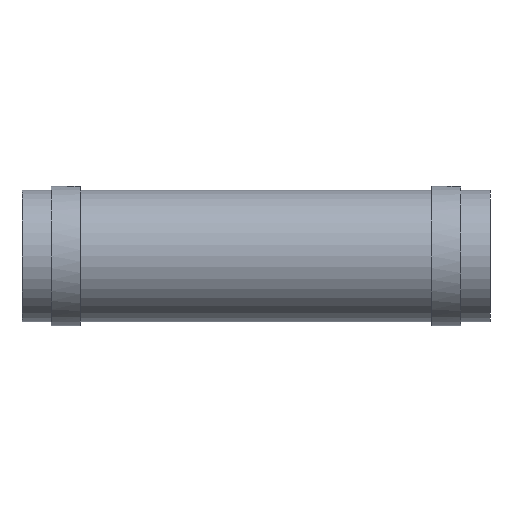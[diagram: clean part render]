
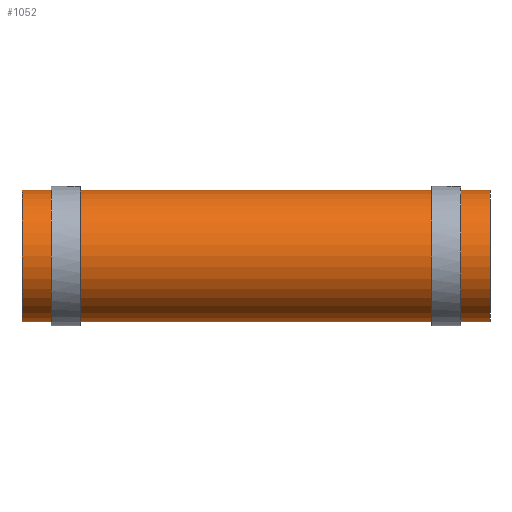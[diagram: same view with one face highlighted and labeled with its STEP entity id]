
A CAD part, front view. The second image highlights one B-rep face of the part: STEP entity #1052.
In plain terms, the highlighted cylindrical face has radius 14.287 mm (diameter 28.575 mm), a partial arc.
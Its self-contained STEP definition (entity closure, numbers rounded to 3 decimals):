
#46 = DIRECTION ( 'NONE',  ( -1., 0., 0. ) ) ;
#59 = CARTESIAN_POINT ( 'NONE',  ( 50.8, 0., -14.288 ) ) ;
#156 = DIRECTION ( 'NONE',  ( -1., 0., 0. ) ) ;
#199 = DIRECTION ( 'NONE',  ( 1., 0., 0. ) ) ;
#269 = CARTESIAN_POINT ( 'NONE',  ( 50.8, 0., -14.288 ) ) ;
#273 = CARTESIAN_POINT ( 'NONE',  ( 50.8, 0., 14.288 ) ) ;
#274 = CARTESIAN_POINT ( 'NONE',  ( -50.8, 0., -14.288 ) ) ;
#279 = CARTESIAN_POINT ( 'NONE',  ( -50.8, 0., 14.288 ) ) ;
#419 = DIRECTION ( 'NONE',  ( 0., 0., 1. ) ) ;
#430 = DIRECTION ( 'NONE',  ( -1., 0., 0. ) ) ;
#433 = CARTESIAN_POINT ( 'NONE',  ( 50.8, 0., 0. ) ) ;
#529 = CARTESIAN_POINT ( 'NONE',  ( 50.8, 0., 0. ) ) ;
#549 = DIRECTION ( 'NONE',  ( 1., 0., 0. ) ) ;
#581 = CARTESIAN_POINT ( 'NONE',  ( 50.8, 0., 14.288 ) ) ;
#610 = DIRECTION ( 'NONE',  ( 0., 0., -1. ) ) ;
#640 = CARTESIAN_POINT ( 'NONE',  ( -50.8, 0., 0. ) ) ;
#682 = DIRECTION ( 'NONE',  ( 0., 0., -1. ) ) ;
#831 = AXIS2_PLACEMENT_3D ( 'NONE', #433, #430, #419 ) ;
#856 = EDGE_CURVE ( 'NONE', #1596, #1584, #1305, .T. ) ;
#858 = EDGE_CURVE ( 'NONE', #1585, #1582, #1310, .T. ) ;
#859 = EDGE_CURVE ( 'NONE', #1585, #1596, #1308, .T. ) ;
#861 = EDGE_CURVE ( 'NONE', #1582, #1584, #1314, .T. ) ;
#931 = AXIS2_PLACEMENT_3D ( 'NONE', #529, #199, #682 ) ;
#933 = AXIS2_PLACEMENT_3D ( 'NONE', #640, #549, #610 ) ;
#1029 = EDGE_LOOP ( 'NONE', ( #1280, #1279, #1278, #1670 ) ) ;
#1052 = ADVANCED_FACE ( 'NONE', ( #1346 ), #1350, .T. ) ;
#1278 = ORIENTED_EDGE ( 'NONE', *, *, #858, .T. ) ;
#1279 = ORIENTED_EDGE ( 'NONE', *, *, #859, .F. ) ;
#1280 = ORIENTED_EDGE ( 'NONE', *, *, #856, .F. ) ;
#1305 = LINE ( 'NONE', #59, #1309 ) ;
#1308 = CIRCLE ( 'NONE', #931, 14.288 ) ;
#1309 = VECTOR ( 'NONE', #156, 1000. ) ;
#1310 = LINE ( 'NONE', #581, #1312 ) ;
#1312 = VECTOR ( 'NONE', #46, 1000. ) ;
#1314 = CIRCLE ( 'NONE', #933, 14.288 ) ;
#1346 = FACE_OUTER_BOUND ( 'NONE', #1029, .T. ) ;
#1350 = CYLINDRICAL_SURFACE ( 'NONE', #831, 14.288 ) ;
#1582 = VERTEX_POINT ( 'NONE', #279 ) ;
#1584 = VERTEX_POINT ( 'NONE', #274 ) ;
#1585 = VERTEX_POINT ( 'NONE', #273 ) ;
#1596 = VERTEX_POINT ( 'NONE', #269 ) ;
#1670 = ORIENTED_EDGE ( 'NONE', *, *, #861, .T. ) ;
